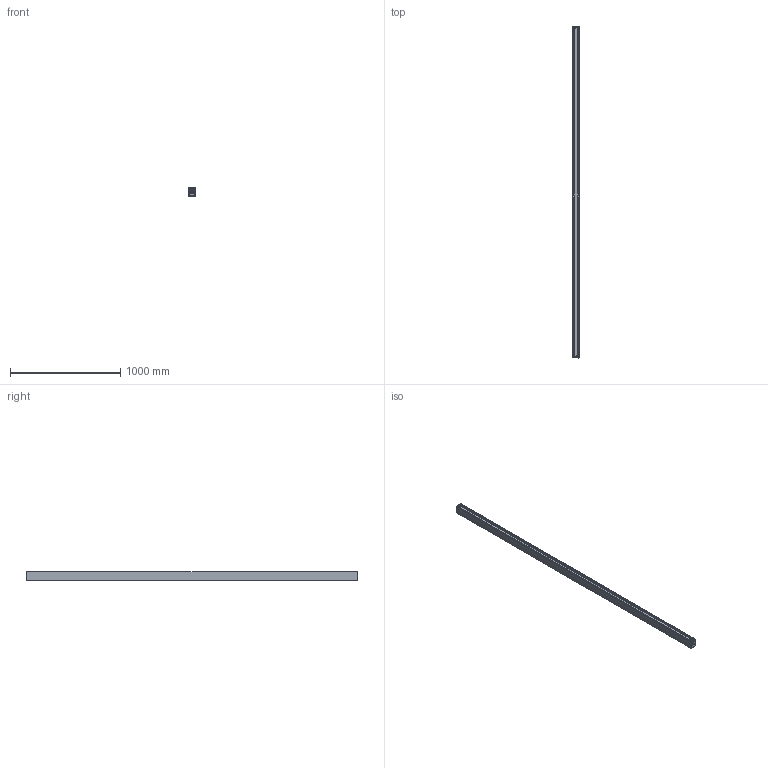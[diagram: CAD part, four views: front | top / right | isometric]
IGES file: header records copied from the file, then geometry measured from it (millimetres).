
Global section: file name: C:\Users\info\Desktop\CRIS\05. NEW PRODUCT\LUMINARIA KISS\3D para web\KISS L300 - IGS.igs; native system: Rhinoceros ( Feb 27 2019 ); preprocessor: Trout Lake IGES 012 Feb 27 2019; date: 260427.135719; units: millimetre
Bounding box: 55 x 3013.48 x 75 mm (x, y, z)
Surface area: 2522419.8 mm2 (no closed solid volume)
Topology: 0 solids, 0 shells, 2006 faces, 17994 edges, 17988 vertices
Faces by surface type: bspline 2006
